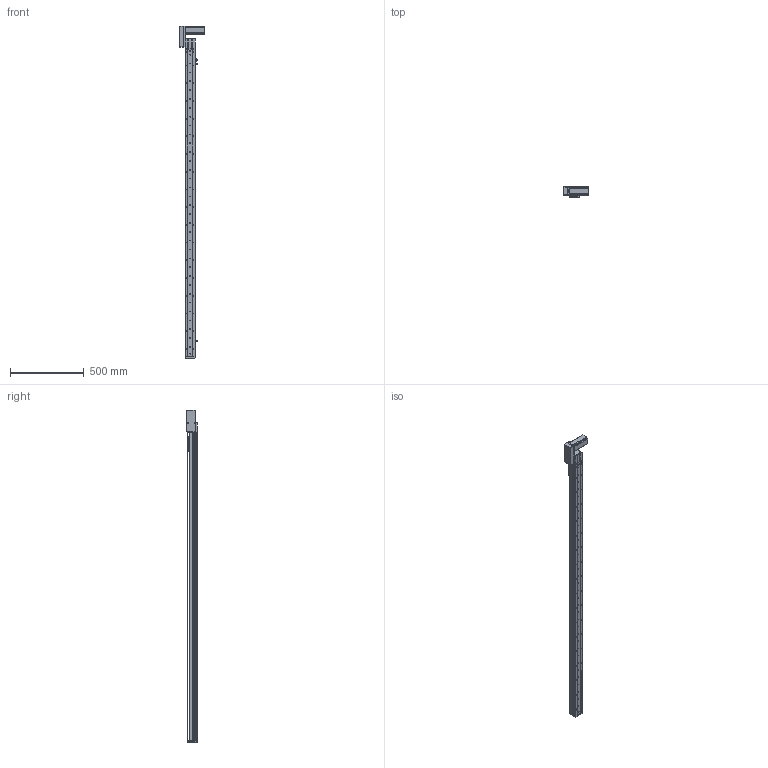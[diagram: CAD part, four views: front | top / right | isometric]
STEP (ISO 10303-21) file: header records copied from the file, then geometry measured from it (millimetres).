
FILE_DESCRIPTION (( 'STEP AP214' ), '1' );
FILE_NAME ('KSD68BS-S1900-MRB-CM.STEP', '2019-10-19T09:42:39', ( '微软用户' ), ( '微软中国' ), 'SwSTEP 2.0', 'SolidWorks 2014', '' );
FILE_SCHEMA (( 'AUTOMOTIVE_DESIGN' ));
Length unit declared in the file: millimetre
Products named in the file (11): KSD68BS-S1900-MRB-CM; 悵誘欶奻狟殏; 68宽马达安装板连板上折同步带; 68宽单导轨半封闭同步带主动轮座右; 68单导轨同步带半封闭端板; KSD68BS 1900俴最裔啣圉猾敕; 覜茼え68遵圉猾敕; KSD68BS半封闭同步带传动导轨座; U倰嫖萇EEㄜSX672; 台达ECMA－C20604AS伺服电机（400W); KSD68BS 1900俴最菁啣圉猾敕
Assembly tree (12 placements, depth 2):
  KSD68BS-S1900-MRB-CM
    KSD68BS 1900俴最菁啣圉猾敕
    台达ECMA－C20604AS伺服电机（400W)
    U倰嫖萇EEㄜSX672  x3
    KSD68BS半封闭同步带传动导轨座
    覜茼え68遵圉猾敕
    KSD68BS 1900俴最裔啣圉猾敕
    68单导轨同步带半封闭端板
    68宽单导轨半封闭同步带主动轮座右
    68宽马达安装板连板上折同步带
    悵誘欶奻狟殏
Bounding box: 167.2 x 70.5 x 2249.5 mm (x, y, z)
Volume: 3505882.8 mm3; surface area: 1322138.5 mm2
Topology: 13 solids, 13 shells, 1676 faces, 4940 edges, 3222 vertices
Faces by surface type: cylinder 898, plane 695, cone 83
Entity records: 66609 total; most frequent: CARTESIAN_POINT 13630, ORIENTED_EDGE 8632, DIRECTION 8290, EDGE_CURVE 4316, AXIS2_PLACEMENT_3D 2994, VERTEX_POINT 2846, VECTOR 2302, LINE 2302
